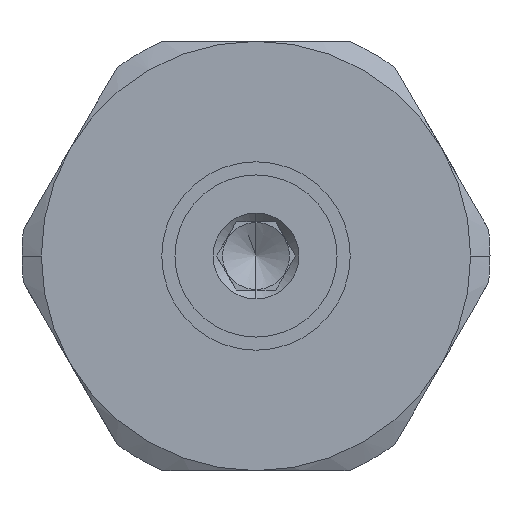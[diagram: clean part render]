
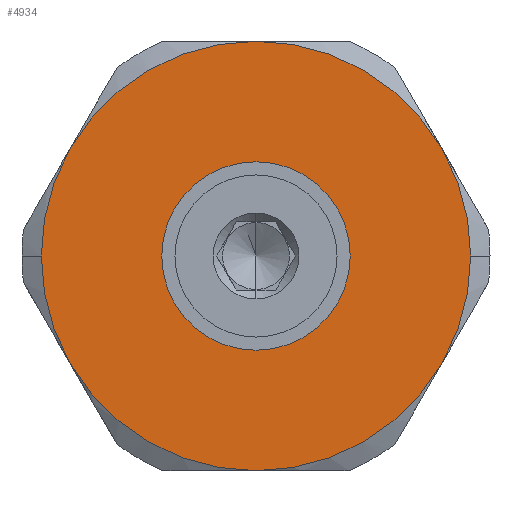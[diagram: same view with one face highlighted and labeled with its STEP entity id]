
A CAD part, left-side view. The second image highlights one B-rep face of the part: STEP entity #4934.
In plain terms, the highlighted planar face has unit normal (-1, 0, 0).
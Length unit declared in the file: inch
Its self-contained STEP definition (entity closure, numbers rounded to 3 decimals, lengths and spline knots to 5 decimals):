
#1190=CARTESIAN_POINT('',(-0.05,0.5,1.95));
#1191=VERTEX_POINT('',#1190);
#1207=CARTESIAN_POINT('',(-0.05,0.43301,1.7));
#1208=VERTEX_POINT('',#1207);
#1222=CARTESIAN_POINT('',(-0.05,0.,1.95));
#1223=DIRECTION('',(-1.0,0.0,0.0));
#1224=DIRECTION('',(0.0,1.0,0.0));
#1225=AXIS2_PLACEMENT_3D('',#1222,#1223,#1224);
#1226=CIRCLE('',#1225,0.5);
#1227=EDGE_CURVE('',#1191,#1208,#1226,.T.);
#1237=CARTESIAN_POINT('',(-0.05,-0.5,1.95));
#1238=VERTEX_POINT('',#1237);
#1245=CARTESIAN_POINT('',(-0.05,-0.43301,1.7));
#1246=VERTEX_POINT('',#1245);
#1247=CARTESIAN_POINT('',(-0.05,0.,1.95));
#1248=DIRECTION('',(-1.0,0.0,0.0));
#1249=DIRECTION('',(0.0,1.0,0.0));
#1250=AXIS2_PLACEMENT_3D('',#1247,#1248,#1249);
#1251=CIRCLE('',#1250,0.5);
#1252=EDGE_CURVE('',#1246,#1238,#1251,.T.);
#1276=CARTESIAN_POINT('',(-0.05,0.2195,1.95));
#1277=VERTEX_POINT('',#1276);
#1286=CARTESIAN_POINT('',(-0.05,-0.2195,1.95));
#1287=VERTEX_POINT('',#1286);
#1288=CARTESIAN_POINT('',(-0.05,0.,1.95));
#1289=DIRECTION('',(1.0,0.0,0.0));
#1290=DIRECTION('',(0.0,1.0,0.0));
#1291=AXIS2_PLACEMENT_3D('',#1288,#1289,#1290);
#1292=CIRCLE('',#1291,0.2195);
#1293=EDGE_CURVE('',#1287,#1277,#1292,.T.);
#4861=CARTESIAN_POINT('',(-0.05,0.,1.95));
#4862=DIRECTION('',(1.0,0.0,0.0));
#4863=DIRECTION('',(0.0,1.0,0.0));
#4864=AXIS2_PLACEMENT_3D('',#4861,#4862,#4863);
#4865=CIRCLE('',#4864,0.2195);
#4866=EDGE_CURVE('',#1277,#1287,#4865,.T.);
#4871=CARTESIAN_POINT('',(-0.05,0.,1.95));
#4872=DIRECTION('',(1.0,0.0,0.0));
#4873=DIRECTION('',(0.0,0.0,-1.0));
#4874=AXIS2_PLACEMENT_3D('',#4871,#4872,#4873);
#4875=PLANE('',#4874);
#4876=CARTESIAN_POINT('',(-0.05,-0.43301,2.2));
#4877=VERTEX_POINT('',#4876);
#4878=CARTESIAN_POINT('',(-0.05,0.,2.45));
#4879=VERTEX_POINT('',#4878);
#4880=CARTESIAN_POINT('',(-0.05,0.,1.95));
#4881=DIRECTION('',(-1.0,0.0,0.0));
#4882=DIRECTION('',(0.0,1.0,0.0));
#4883=AXIS2_PLACEMENT_3D('',#4880,#4881,#4882);
#4884=CIRCLE('',#4883,0.5);
#4885=EDGE_CURVE('',#4877,#4879,#4884,.T.);
#4886=ORIENTED_EDGE('',*,*,#4885,.T.);
#4887=CARTESIAN_POINT('',(-0.05,0.43301,2.2));
#4888=VERTEX_POINT('',#4887);
#4889=CARTESIAN_POINT('',(-0.05,0.,1.95));
#4890=DIRECTION('',(-1.0,0.0,0.0));
#4891=DIRECTION('',(0.0,1.0,0.0));
#4892=AXIS2_PLACEMENT_3D('',#4889,#4890,#4891);
#4893=CIRCLE('',#4892,0.5);
#4894=EDGE_CURVE('',#4879,#4888,#4893,.T.);
#4895=ORIENTED_EDGE('',*,*,#4894,.T.);
#4896=CARTESIAN_POINT('',(-0.05,0.,1.95));
#4897=DIRECTION('',(-1.0,0.0,0.0));
#4898=DIRECTION('',(0.0,1.0,0.0));
#4899=AXIS2_PLACEMENT_3D('',#4896,#4897,#4898);
#4900=CIRCLE('',#4899,0.5);
#4901=EDGE_CURVE('',#4888,#1191,#4900,.T.);
#4902=ORIENTED_EDGE('',*,*,#4901,.T.);
#4903=ORIENTED_EDGE('',*,*,#1227,.T.);
#4904=CARTESIAN_POINT('',(-0.05,0.,1.45));
#4905=VERTEX_POINT('',#4904);
#4906=CARTESIAN_POINT('',(-0.05,0.,1.95));
#4907=DIRECTION('',(-1.0,0.0,0.0));
#4908=DIRECTION('',(0.0,1.0,0.0));
#4909=AXIS2_PLACEMENT_3D('',#4906,#4907,#4908);
#4910=CIRCLE('',#4909,0.5);
#4911=EDGE_CURVE('',#1208,#4905,#4910,.T.);
#4912=ORIENTED_EDGE('',*,*,#4911,.T.);
#4913=CARTESIAN_POINT('',(-0.05,0.,1.95));
#4914=DIRECTION('',(-1.0,0.0,0.0));
#4915=DIRECTION('',(0.0,1.0,0.0));
#4916=AXIS2_PLACEMENT_3D('',#4913,#4914,#4915);
#4917=CIRCLE('',#4916,0.5);
#4918=EDGE_CURVE('',#4905,#1246,#4917,.T.);
#4919=ORIENTED_EDGE('',*,*,#4918,.T.);
#4920=ORIENTED_EDGE('',*,*,#1252,.T.);
#4921=CARTESIAN_POINT('',(-0.05,0.,1.95));
#4922=DIRECTION('',(-1.0,0.0,0.0));
#4923=DIRECTION('',(0.0,1.0,0.0));
#4924=AXIS2_PLACEMENT_3D('',#4921,#4922,#4923);
#4925=CIRCLE('',#4924,0.5);
#4926=EDGE_CURVE('',#1238,#4877,#4925,.T.);
#4927=ORIENTED_EDGE('',*,*,#4926,.T.);
#4928=EDGE_LOOP('',(#4886,#4895,#4902,#4903,#4912,#4919,#4920,#4927));
#4929=FACE_OUTER_BOUND('',#4928,.T.);
#4930=ORIENTED_EDGE('',*,*,#4866,.T.);
#4931=ORIENTED_EDGE('',*,*,#1293,.T.);
#4932=EDGE_LOOP('',(#4930,#4931));
#4933=FACE_BOUND('',#4932,.T.);
#4934=ADVANCED_FACE('',(#4929,#4933),#4875,.F.);
